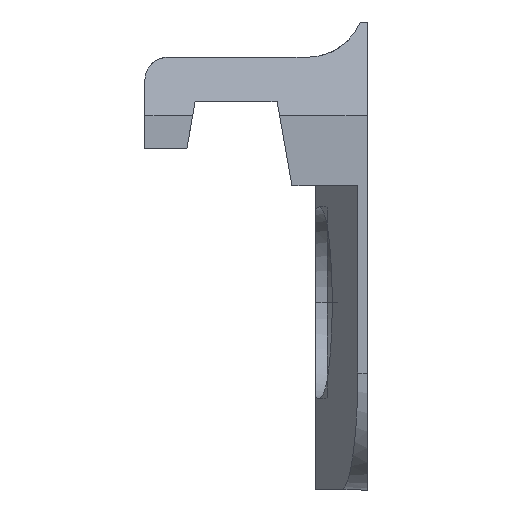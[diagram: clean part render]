
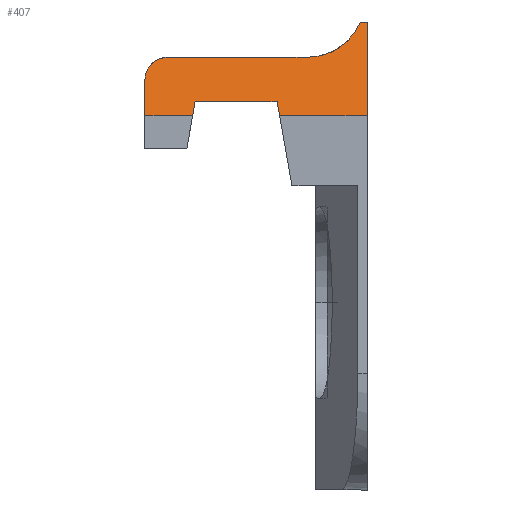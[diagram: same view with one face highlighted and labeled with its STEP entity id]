
A CAD part, front view. The second image highlights one B-rep face of the part: STEP entity #407.
In plain terms, the highlighted planar face has unit normal (0, -0.574, 0.819).
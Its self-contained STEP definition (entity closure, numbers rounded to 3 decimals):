
#246 = CARTESIAN_POINT ( 'NONE',  ( -0.3, -25.787, 12. ) ) ;
#248 = CARTESIAN_POINT ( 'NONE',  ( -7.456, -31.5, 8. ) ) ;
#250 = CARTESIAN_POINT ( 'NONE',  ( -9.5, -31.5, 8. ) ) ;
#254 = CARTESIAN_POINT ( 'NONE',  ( 0., -25.787, 12. ) ) ;
#260 = CARTESIAN_POINT ( 'NONE',  ( 0., -31.5, 8. ) ) ;
#265 = CARTESIAN_POINT ( 'NONE',  ( -3.744, -31.5, 8. ) ) ;
#268 = CARTESIAN_POINT ( 'NONE',  ( -2.525, -27.93, 10.5 ) ) ;
#270 = CARTESIAN_POINT ( 'NONE',  ( -8.5, -27.93, 10.5 ) ) ;
#273 = CARTESIAN_POINT ( 'NONE',  ( -9.5, -29.358, 9.5 ) ) ;
#281 = CARTESIAN_POINT ( 'NONE',  ( -7.35, -30.643, 8.6 ) ) ;
#283 = CARTESIAN_POINT ( 'NONE',  ( -3.85, -30.643, 8.6 ) ) ;
#407 = ADVANCED_FACE ( 'NONE', ( #2458 ), #2705, .F. ) ;
#551 = EDGE_CURVE ( 'NONE', #2919, #2912, #2254, .T. ) ;
#567 = EDGE_CURVE ( 'NONE', #2941, #2906, #2232, .T. ) ;
#571 = EDGE_CURVE ( 'NONE', #2906, #2900, #2238, .T. ) ;
#573 = EDGE_CURVE ( 'NONE', #2912, #2897, #2239, .T. ) ;
#576 = EDGE_CURVE ( 'NONE', #2897, #2934, #2574, .T. ) ;
#579 = EDGE_CURVE ( 'NONE', #2934, #2937, #2207, .T. ) ;
#582 = EDGE_CURVE ( 'NONE', #2937, #2941, #2572, .T. ) ;
#585 = EDGE_CURVE ( 'NONE', #2954, #2927, #2194, .T. ) ;
#587 = EDGE_CURVE ( 'NONE', #2900, #2952, #2188, .T. ) ;
#593 = EDGE_CURVE ( 'NONE', #2952, #2954, #2198, .T. ) ;
#609 = EDGE_CURVE ( 'NONE', #2927, #2919, #2139, .T. ) ;
#708 = AXIS2_PLACEMENT_3D ( 'NONE', #2706, #2703, #2702 ) ;
#1070 = CARTESIAN_POINT ( 'NONE',  ( 0., 313.937, 249.877 ) ) ;
#1071 = DIRECTION ( 'NONE',  ( 0., 0.819, 0.574 ) ) ;
#1116 = CARTESIAN_POINT ( 'NONE',  ( -9.5, 311.399, 248.101 ) ) ;
#1117 = DIRECTION ( 'NONE',  ( 0., -0.819, -0.574 ) ) ;
#1122 = CARTESIAN_POINT ( 'NONE',  ( -8.5, -31.5, 8. ) ) ;
#1124 = CARTESIAN_POINT ( 'NONE',  ( -0.3, -25.787, 12. ) ) ;
#1125 = DIRECTION ( 'NONE',  ( 1., 0., 0. ) ) ;
#1129 = DIRECTION ( 'NONE',  ( -1., 0., 0. ) ) ;
#1132 = CARTESIAN_POINT ( 'NONE',  ( -0.3, -25.787, 12. ) ) ;
#1135 = CARTESIAN_POINT ( 'NONE',  ( -8.5, -27.93, 10.5 ) ) ;
#1136 = CARTESIAN_POINT ( 'NONE',  ( -0.679, -27.124, 11.064 ) ) ;
#1137 = CARTESIAN_POINT ( 'NONE',  ( -1.515, -27.93, 10.5 ) ) ;
#1138 = CARTESIAN_POINT ( 'NONE',  ( -2.525, -27.93, 10.5 ) ) ;
#1144 = DIRECTION ( 'NONE',  ( -1., 0., 0. ) ) ;
#1147 = CARTESIAN_POINT ( 'NONE',  ( -8.5, -27.93, 10.5 ) ) ;
#1150 = CARTESIAN_POINT ( 'NONE',  ( -3.85, -30.643, 8.6 ) ) ;
#1151 = CARTESIAN_POINT ( 'NONE',  ( -9.086, -27.93, 10.5 ) ) ;
#1152 = CARTESIAN_POINT ( 'NONE',  ( -9.5, -28.521, 10.086 ) ) ;
#1153 = CARTESIAN_POINT ( 'NONE',  ( -9.5, -29.358, 9.5 ) ) ;
#1158 = CARTESIAN_POINT ( 'NONE',  ( -45.555, 307.14, 245.118 ) ) ;
#1159 = DIRECTION ( 'NONE',  ( 0.101, -0.815, -0.571 ) ) ;
#1162 = CARTESIAN_POINT ( 'NONE',  ( 34.568, 308.866, 246.327 ) ) ;
#1163 = DIRECTION ( 'NONE',  ( 0.101, 0.815, 0.571 ) ) ;
#1175 = DIRECTION ( 'NONE',  ( 1., 0., 0. ) ) ;
#1200 = CARTESIAN_POINT ( 'NONE',  ( -8.5, -31.5, 8. ) ) ;
#1211 = DIRECTION ( 'NONE',  ( 1., 0., 0. ) ) ;
#1569 = ORIENTED_EDGE ( 'NONE', *, *, #573, .T. ) ;
#1570 = ORIENTED_EDGE ( 'NONE', *, *, #551, .T. ) ;
#1572 = ORIENTED_EDGE ( 'NONE', *, *, #609, .T. ) ;
#1573 = ORIENTED_EDGE ( 'NONE', *, *, #585, .T. ) ;
#1574 = ORIENTED_EDGE ( 'NONE', *, *, #593, .T. ) ;
#1575 = ORIENTED_EDGE ( 'NONE', *, *, #587, .T. ) ;
#1576 = ORIENTED_EDGE ( 'NONE', *, *, #571, .T. ) ;
#1577 = ORIENTED_EDGE ( 'NONE', *, *, #567, .T. ) ;
#1578 = ORIENTED_EDGE ( 'NONE', *, *, #582, .T. ) ;
#1580 = ORIENTED_EDGE ( 'NONE', *, *, #579, .T. ) ;
#1582 = ORIENTED_EDGE ( 'NONE', *, *, #576, .T. ) ;
#1876 = EDGE_LOOP ( 'NONE', ( #1582, #1580, #1578, #1577, #1576, #1575, #1574, #1573, #1572, #1570, #1569 ) ) ;
#2133 = VECTOR ( 'NONE', #1211, 1000. ) ;
#2139 = LINE ( 'NONE', #1200, #2133 ) ;
#2173 = VECTOR ( 'NONE', #1175, 1000. ) ;
#2187 = VECTOR ( 'NONE', #1163, 1000. ) ;
#2188 = LINE ( 'NONE', #1162, #2187 ) ;
#2193 = VECTOR ( 'NONE', #1159, 1000. ) ;
#2194 = LINE ( 'NONE', #1158, #2193 ) ;
#2198 = LINE ( 'NONE', #1150, #2173 ) ;
#2203 = VECTOR ( 'NONE', #1144, 1000. ) ;
#2207 = LINE ( 'NONE', #1135, #2203 ) ;
#2212 = VECTOR ( 'NONE', #1129, 1000. ) ;
#2216 = VECTOR ( 'NONE', #1125, 1000. ) ;
#2228 = VECTOR ( 'NONE', #1117, 1000. ) ;
#2232 = LINE ( 'NONE', #1116, #2228 ) ;
#2238 = LINE ( 'NONE', #1122, #2216 ) ;
#2239 = LINE ( 'NONE', #1124, #2212 ) ;
#2250 = VECTOR ( 'NONE', #1071, 1000. ) ;
#2254 = LINE ( 'NONE', #1070, #2250 ) ;
#2458 = FACE_OUTER_BOUND ( 'NONE', #1876, .T. ) ;
#2572 =( BOUNDED_CURVE ( )  B_SPLINE_CURVE ( 3, ( #1147, #1151, #1152, #1153 ),
 .UNSPECIFIED., .F., .T. ) 
 B_SPLINE_CURVE_WITH_KNOTS ( ( 4, 4 ),
 ( 3.142, 4.712 ),
 .UNSPECIFIED. ) 
 CURVE ( )  GEOMETRIC_REPRESENTATION_ITEM ( )  RATIONAL_B_SPLINE_CURVE ( ( 1., 0.805, 0.805, 1. ) ) 
 REPRESENTATION_ITEM ( '' )  );
#2574 =( BOUNDED_CURVE ( )  B_SPLINE_CURVE ( 3, ( #1132, #1136, #1137, #1138 ),
 .UNSPECIFIED., .F., .T. ) 
 B_SPLINE_CURVE_WITH_KNOTS ( ( 4, 4 ),
 ( 5.097, 6.283 ),
 .UNSPECIFIED. ) 
 CURVE ( )  GEOMETRIC_REPRESENTATION_ITEM ( )  RATIONAL_B_SPLINE_CURVE ( ( 1., 0.886, 0.886, 1. ) ) 
 REPRESENTATION_ITEM ( '' )  );
#2702 = DIRECTION ( 'NONE',  ( 0., 0.819, 0.574 ) ) ;
#2703 = DIRECTION ( 'NONE',  ( 0., 0.574, -0.819 ) ) ;
#2705 = PLANE ( 'NONE',  #708 ) ;
#2706 = CARTESIAN_POINT ( 'NONE',  ( -8.5, -31.5, 8. ) ) ;
#2897 = VERTEX_POINT ( 'NONE', #246 ) ;
#2900 = VERTEX_POINT ( 'NONE', #248 ) ;
#2906 = VERTEX_POINT ( 'NONE', #250 ) ;
#2912 = VERTEX_POINT ( 'NONE', #254 ) ;
#2919 = VERTEX_POINT ( 'NONE', #260 ) ;
#2927 = VERTEX_POINT ( 'NONE', #265 ) ;
#2934 = VERTEX_POINT ( 'NONE', #268 ) ;
#2937 = VERTEX_POINT ( 'NONE', #270 ) ;
#2941 = VERTEX_POINT ( 'NONE', #273 ) ;
#2952 = VERTEX_POINT ( 'NONE', #281 ) ;
#2954 = VERTEX_POINT ( 'NONE', #283 ) ;
